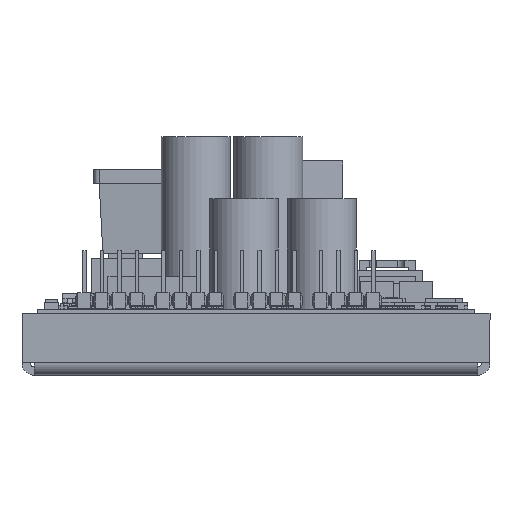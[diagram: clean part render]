
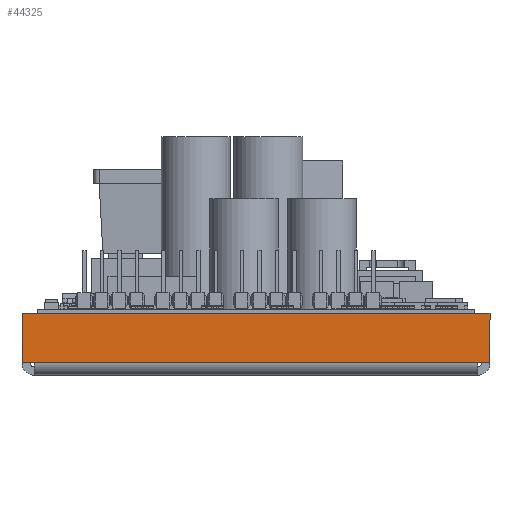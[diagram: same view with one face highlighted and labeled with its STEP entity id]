
A CAD part, front view. The second image highlights one B-rep face of the part: STEP entity #44325.
In plain terms, the highlighted planar face has unit normal (0, -1, 0).
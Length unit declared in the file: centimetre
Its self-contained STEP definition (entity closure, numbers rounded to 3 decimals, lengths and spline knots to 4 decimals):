
#25778=VERTEX_POINT('',#53225);
#25780=VERTEX_POINT('',#53229);
#25782=VERTEX_POINT('',#53235);
#25791=VERTEX_POINT('',#53260);
#25793=VERTEX_POINT('',#53263);
#25796=VERTEX_POINT('',#53271);
#27759=VECTOR('',#47562,1.);
#27761=VECTOR('',#47565,1.);
#27772=VECTOR('',#47584,1.);
#27777=VECTOR('',#47590,1.);
#27814=VECTOR('',#47672,1.);
#27815=VECTOR('',#47673,1.);
#30121=LINE('',#53230,#27759);
#30123=LINE('',#53234,#27761);
#30134=LINE('',#53262,#27772);
#30139=LINE('',#53272,#27777);
#30176=LINE('',#53378,#27814);
#30177=LINE('',#53379,#27815);
#32483=EDGE_CURVE('',#25780,#25778,#30121,.T.);
#32485=EDGE_CURVE('',#25778,#25782,#30123,.T.);
#32498=EDGE_CURVE('',#25793,#25791,#30134,.T.);
#32503=EDGE_CURVE('',#25796,#25791,#30139,.T.);
#32552=EDGE_CURVE('',#25793,#25780,#30176,.T.);
#32553=EDGE_CURVE('',#25796,#25782,#30177,.T.);
#35576=ORIENTED_EDGE('',*,*,#32552,.F.);
#35577=ORIENTED_EDGE('',*,*,#32498,.T.);
#35578=ORIENTED_EDGE('',*,*,#32503,.F.);
#35579=ORIENTED_EDGE('',*,*,#32553,.T.);
#35580=ORIENTED_EDGE('',*,*,#32485,.F.);
#35581=ORIENTED_EDGE('',*,*,#32483,.F.);
#41543=EDGE_LOOP('',(#35576,#35577,#35578,#35579,#35580,#35581));
#42936=FACE_BOUND('',#41543,.T.);
#44325=ADVANCED_FACE('',(#42936),#62655,.F.);
#45518=AXIS2_PLACEMENT_3D('',#53377,#47671,$);
#47562=DIRECTION('',(-1.,0.,0.));
#47565=DIRECTION('',(0.,0.,1.));
#47584=DIRECTION('',(1.,0.,0.));
#47590=DIRECTION('',(0.,0.,-1.));
#47671=DIRECTION('',(0.,1.,0.));
#47672=DIRECTION('',(-1.,0.,0.));
#47673=DIRECTION('',(-1.,0.,0.));
#53225=CARTESIAN_POINT('',(-3.3931,-4.0281,0.18));
#53229=CARTESIAN_POINT('',(-3.2131,-4.0281,0.18));
#53230=CARTESIAN_POINT('',(-3.2131,-4.0281,0.18));
#53234=CARTESIAN_POINT('',(-3.3931,-4.0281,0.18));
#53235=CARTESIAN_POINT('',(-3.3931,-4.0281,0.9013));
#53260=CARTESIAN_POINT('',(3.3931,-4.0281,0.18));
#53262=CARTESIAN_POINT('',(3.2131,-4.0281,0.18));
#53263=CARTESIAN_POINT('',(3.2131,-4.0281,0.18));
#53271=CARTESIAN_POINT('',(3.3931,-4.0281,0.9013));
#53272=CARTESIAN_POINT('',(3.3931,-4.0281,0.9013));
#53377=CARTESIAN_POINT('',(0.,-4.0281,0.5015));
#53378=CARTESIAN_POINT('',(0.,-4.0281,0.18));
#53379=CARTESIAN_POINT('',(-3.2131,-4.0281,0.9013));
#62655=PLANE('',#45518);
